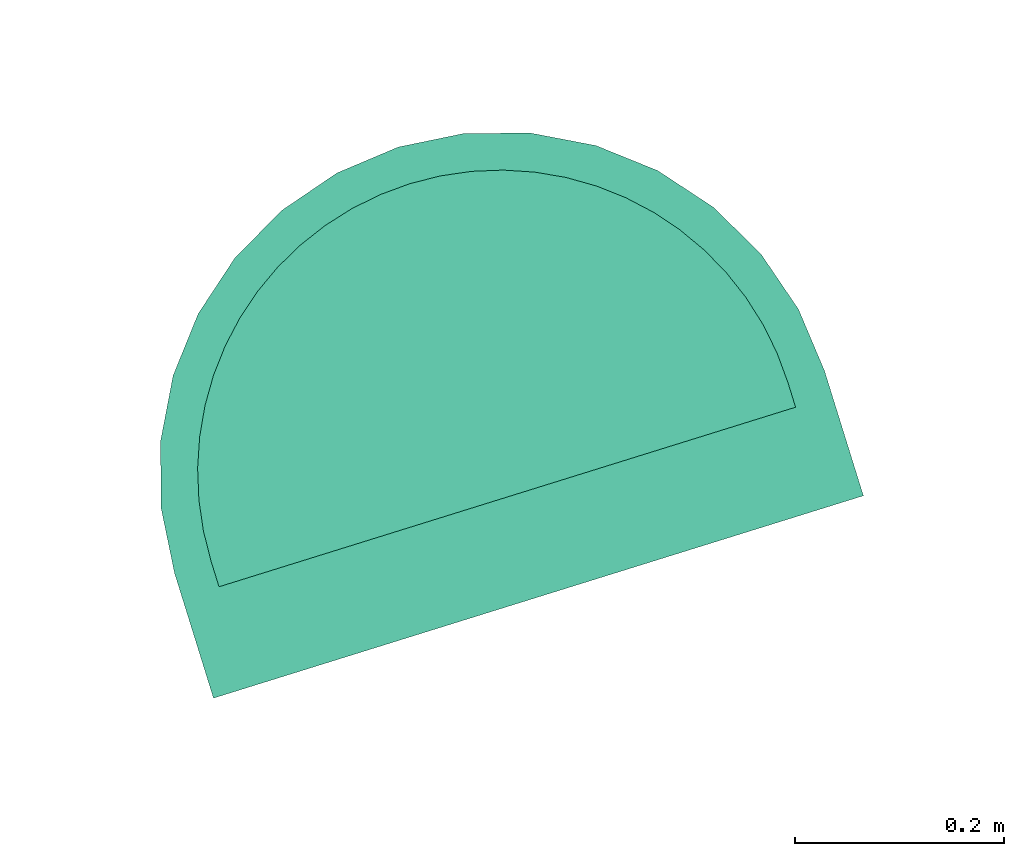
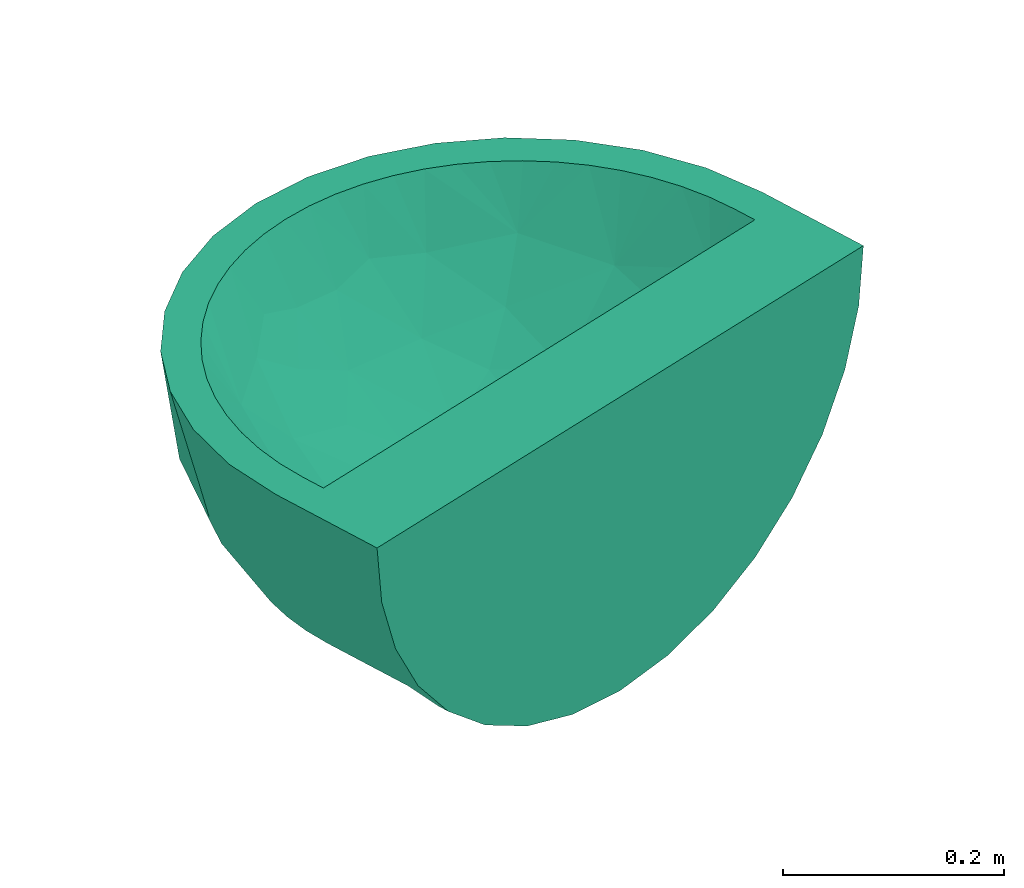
# Not in any storey, part 6 of 20: 1 sanitary terminal.
"""IFC4 model written with IfcOpenShell, lengths in metres."""

from ifc_helpers import new_model, entity, si_unit, converted_unit, direction, frame, origin, place, context, subcontext, project, polygons, source, transform, mapped, material, type_object, element, save


model = new_model("IFC4")

# Units and contexts
model_context = context("Model", 3, precision=1e-05, world=origin(), true_north=direction((6.12323399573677e-17, 1.0)))
body_context = subcontext(model_context, "Body", "Model", "MODEL_VIEW")
ifc_project = project(units=[si_unit("LENGTHUNIT", "METRE"), si_unit("AREAUNIT", "SQUARE_METRE"), si_unit("VOLUMEUNIT", "CUBIC_METRE"), converted_unit("PLANEANGLEUNIT", "DEGREE", entity("IfcPlaneAngleMeasure", 0.0174532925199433), si_unit("PLANEANGLEUNIT", "RADIAN"), dimensions=[0, 0, 0, 0, 0, 0, 0])], contexts=[model_context])

# Sanitary terminal
ifc_material = material(Name="<Unnamed>")
sanitary_terminal_type = type_object("IfcSanitaryTerminalType", Name="NLRS_74_PF_WB_wastafel_gen:wastafel", PredefinedType="SINK", material=ifc_material)
shared_shape = source(origin(), body_context, "Body", "Tessellation", [
    polygons([(-0.303081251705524, 0.175000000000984, -3.7), (-0.303081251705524, 0.0499999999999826, -3.7), (0.021918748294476, 0.0499999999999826, -3.7), (0.021918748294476, 0.150000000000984, -3.7), (-0.266395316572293, 0.150000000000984, -3.7), (-0.266395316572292, 0.175000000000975, -3.7), (-0.264816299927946, 0.205133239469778, -3.7), (-0.260095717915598, 0.234940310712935, -3.7), (-0.252285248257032, 0.264090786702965, -3.7), (-0.241470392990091, 0.292265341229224, -3.7), (-0.227769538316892, 0.319155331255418, -3.7), (-0.21133265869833, 0.344466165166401, -3.7), (-0.192339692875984, 0.367920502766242, -3.7), (-0.170998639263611, 0.389261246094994, -3.7), (-0.147543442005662, 0.408254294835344, -3.7), (-0.122231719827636, 0.424691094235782, -3.7), (-0.0953421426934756, 0.438391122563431, -3.7), (-0.0671705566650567, 0.449204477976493, -3.7), (-0.038024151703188, 0.457013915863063, -3.7), (-0.00821701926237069, 0.461734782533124, -3.7), (0.021918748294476, 0.463314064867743, -3.7), (0.021918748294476, 0.500000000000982, -3.7), (-0.0414856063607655, 0.493755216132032, -3.7), (-0.102453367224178, 0.475260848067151, -3.7), (-0.158641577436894, 0.44522762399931, -3.7), (-0.207890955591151, 0.404809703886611, -3.7), (-0.248308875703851, 0.355560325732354, -3.7), (-0.278342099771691, 0.299372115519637, -3.7), (-0.296836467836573, 0.238404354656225, -3.7), (0.346918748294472, 0.175000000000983, -3.7), (0.340673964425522, 0.238404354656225, -3.7), (0.32217959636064, 0.299372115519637, -3.7), (0.292146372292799, 0.355560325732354, -3.7), (0.2517284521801, 0.404809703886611, -3.7), (0.202479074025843, 0.44522762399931, -3.7), (0.146290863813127, 0.475260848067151, -3.7), (0.0853231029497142, 0.493755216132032, -3.7), (0.0520545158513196, 0.461734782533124, -3.7), (0.0818616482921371, 0.457013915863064, -3.7), (0.111008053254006, 0.449204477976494, -3.7), (0.139179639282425, 0.438391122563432, -3.7), (0.166069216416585, 0.424691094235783, -3.7), (0.191380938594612, 0.408254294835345, -3.7), (0.214836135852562, 0.389261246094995, -3.7), (0.236177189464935, 0.367920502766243, -3.7), (0.255170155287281, 0.344466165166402, -3.7), (0.271607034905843, 0.319155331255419, -3.7), (0.285307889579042, 0.292265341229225, -3.7), (0.296122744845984, 0.264090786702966, -3.7), (0.303933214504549, 0.234940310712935, -3.7), (0.308653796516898, 0.205133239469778, -3.7), (0.310232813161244, 0.175000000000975, -3.7), (0.310232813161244, 0.150000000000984, -3.7), (0.346918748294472, 0.0499999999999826, -3.7), (-0.298628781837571, 0.175000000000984, -3.75361232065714), (-0.285393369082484, 0.175000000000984, -3.8057556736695), (-0.263737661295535, 0.175000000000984, -3.85500134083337), (-0.234255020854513, 0.175000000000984, -3.9), (-0.234255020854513, 0.0749999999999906, -3.9), (-0.193925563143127, 0.0749999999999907, -3.94297372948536), (-0.146498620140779, 0.0749999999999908, -3.97795789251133), (-0.0935337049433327, 0.0749999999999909, -4.00380212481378), (-0.0367724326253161, 0.074999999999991, -4.01965660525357), (0.0219187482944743, 0.074999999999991, -4.025), (0.0806099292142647, 0.074999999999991, -4.01965660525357), (0.137371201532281, 0.0749999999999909, -4.00380212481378), (0.190336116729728, 0.0749999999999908, -3.97795789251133), (0.237763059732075, 0.0749999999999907, -3.94297372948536), (0.278092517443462, 0.0749999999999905, -3.9), (0.278092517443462, 0.175000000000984, -3.9), (0.307575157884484, 0.175000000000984, -3.85500134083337), (0.329230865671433, 0.175000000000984, -3.8057556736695), (0.34246627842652, 0.175000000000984, -3.75361232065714), (0.340673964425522, 0.0499999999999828, -3.76340435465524), (0.32217959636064, 0.049999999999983, -3.82437211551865), (0.292146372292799, 0.0499999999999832, -3.88056032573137), (0.2517284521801, 0.0499999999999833, -3.92980970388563), (0.202479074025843, 0.0499999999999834, -3.97022762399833), (0.146290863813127, 0.0499999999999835, -4.00026084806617), (0.085323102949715, 0.0499999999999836, -4.01875521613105), (0.0219187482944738, 0.0499999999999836, -4.025), (-0.0414856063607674, 0.0499999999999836, -4.01875521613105), (-0.102453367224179, 0.0499999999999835, -4.00026084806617), (-0.158641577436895, 0.0499999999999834, -3.97022762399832), (-0.207890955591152, 0.0499999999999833, -3.92980970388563), (-0.248308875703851, 0.0499999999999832, -3.88056032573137), (-0.278342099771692, 0.049999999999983, -3.82437211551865), (-0.296836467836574, 0.0499999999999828, -3.76340435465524), (-0.21409029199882, 0.0749999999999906, -3.92148686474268), (-0.170212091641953, 0.0749999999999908, -3.96046581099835), (0.214049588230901, 0.0749999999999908, -3.96046581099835), (0.257927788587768, 0.0749999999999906, -3.92148686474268), (0.27193741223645, 0.0499999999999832, -3.9051850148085), (0.227103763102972, 0.0499999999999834, -3.95001866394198), (0.174384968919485, 0.0499999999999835, -3.98524423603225), (0.115806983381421, 0.0499999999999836, -4.00950803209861), (-0.0719694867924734, 0.0499999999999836, -4.00950803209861), (-0.130547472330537, 0.0499999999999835, -3.98524423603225), (-0.183266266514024, 0.0499999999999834, -3.95001866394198), (-0.228099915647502, 0.0499999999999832, -3.9051850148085), (0.163853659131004, 0.0749999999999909, -3.99088000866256), (0.108990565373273, 0.0749999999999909, -4.01172936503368), (-0.0651530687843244, 0.0749999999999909, -4.01172936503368), (-0.120016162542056, 0.0749999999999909, -3.99088000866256), (0.27659082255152, 0.202697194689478, -3.9), (0.272103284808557, 0.230069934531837, -3.9), (0.264682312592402, 0.256797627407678, -3.9), (0.254414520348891, 0.282567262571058, -3.9), (0.24141970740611, 0.307076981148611, -3.9), (0.225849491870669, 0.330039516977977, -3.9), (0.207885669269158, 0.351185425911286, -3.9), (0.18773840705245, 0.370266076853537, -3.9), (0.165644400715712, 0.38705644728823, -3.9), (0.141864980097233, 0.401357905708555, -3.9), (0.116683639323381, 0.413001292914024, -3.9), (0.0904016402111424, 0.421850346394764, -3.9), (0.0633306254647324, 0.427804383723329, -3.9), (0.0357845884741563, 0.430798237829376, -3.9), (0.00807674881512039, 0.43079952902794, -3.9), (-0.0194777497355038, 0.427806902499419, -3.9), (-0.0465597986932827, 0.421851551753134, -3.9), (-0.0728496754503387, 0.412999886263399, -3.9), (-0.0980340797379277, 0.401354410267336, -3.9), (-0.121813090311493, 0.387052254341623, -3.9), (-0.1439051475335, 0.370262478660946, -3.9), (-0.164050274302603, 0.351183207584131, -3.9), (-0.182012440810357, 0.33003893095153, -3.9), (-0.197581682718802, 0.307077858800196, -3.9), (-0.210576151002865, 0.282569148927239, -3.9), (-0.220844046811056, 0.256799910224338, -3.9), (-0.228265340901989, 0.230071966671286, -3.9), (-0.232753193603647, 0.202698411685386, -3.9), (-0.257045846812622, 0.297316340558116, -3.81332461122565), (0.300884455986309, 0.297313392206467, -3.81332505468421), (-0.0097834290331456, 0.496877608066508, -3.7), (-0.205655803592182, 0.378737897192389, -3.81102113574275), (0.249493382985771, 0.378737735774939, -3.81102126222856), (0.0536209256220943, 0.496877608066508, -3.7), (0.0219337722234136, 0.481913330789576, -3.80690747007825), (-0.0719694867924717, 0.484508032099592, -3.7), (0.11580698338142, 0.484508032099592, -3.7), (-0.0425022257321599, 0.471258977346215, -3.81707073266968), (-0.165040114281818, 0.416191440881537, -3.81179477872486), (0.20887408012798, 0.416198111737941, -3.81178629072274), (0.0863501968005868, 0.471256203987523, -3.8170719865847), (-0.23446246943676, 0.305265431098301, -3.85140868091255), (0.278301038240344, 0.305263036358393, -3.85140892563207), (-0.120243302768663, 0.443687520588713, -3.81498681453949), (0.164074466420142, 0.443691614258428, -3.81498507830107), (-0.233336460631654, 0.358005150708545, -3.78353976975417), (0.277175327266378, 0.358003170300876, -3.78353992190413), (-0.290060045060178, 0.240925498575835, -3.76283359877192), (0.333897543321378, 0.240925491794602, -3.76283359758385), (-0.275008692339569, 0.237028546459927, -3.81666856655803), (-0.254394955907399, 0.239447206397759, -3.85850014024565), (-0.272362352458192, 0.296908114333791, -3.76451391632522), (0.31884634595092, 0.237026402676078, -3.81666930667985), (0.298232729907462, 0.239444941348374, -3.85850057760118), (0.316201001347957, 0.296905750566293, -3.76451312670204), (-0.0755829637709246, 0.474402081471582, -3.78047862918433), (-0.0690330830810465, 0.449635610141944, -3.84808121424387), (0.119420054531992, 0.474406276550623, -3.7804635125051), (0.112885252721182, 0.449636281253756, -3.84807095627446), (-0.228099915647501, 0.380185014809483, -3.7), (0.27193741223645, 0.380185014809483, -3.7), (-0.183266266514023, 0.425018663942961, -3.7), (0.227103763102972, 0.425018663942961, -3.7), (-0.130547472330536, 0.460244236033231, -3.7), (0.174384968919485, 0.460244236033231, -3.7), (-0.234514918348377, 0.175000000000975, -3.74966665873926), (-0.194178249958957, 0.175000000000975, -3.79274902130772), (-0.146715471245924, 0.175000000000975, -3.82782638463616), (-0.0936917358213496, 0.175000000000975, -3.85374202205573), (-0.0368555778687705, 0.175000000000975, -3.86964132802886), (0.0219187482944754, 0.175000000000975, -3.875), (0.0806930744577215, 0.175000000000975, -3.86964132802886), (0.137529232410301, 0.175000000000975, -3.85374202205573), (0.190552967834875, 0.175000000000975, -3.82782638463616), (0.238015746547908, 0.175000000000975, -3.79274902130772), (0.278352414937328, 0.175000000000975, -3.74966665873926), (-0.119627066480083, 0.322173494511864, -3.80284332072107), (0.163464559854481, 0.32217349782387, -3.8028433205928), (-0.200517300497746, 0.262511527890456, -3.77020203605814), (0.244354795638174, 0.262511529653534, -3.77020203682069), (-0.162633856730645, 0.347041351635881, -3.75485875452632), (0.206471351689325, 0.347041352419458, -3.75485875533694), (0.00220012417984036, 0.367185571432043, -3.81134437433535), (-0.0912046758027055, 0.393814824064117, -3.76200981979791), (0.135042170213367, 0.393814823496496, -3.76200982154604), (0.0498196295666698, 0.280825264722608, -3.85601887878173), (-0.0620730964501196, 0.266760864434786, -3.85025041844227), (0.160889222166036, 0.248929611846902, -3.83433540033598), (0.0405814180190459, 0.417340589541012, -3.76574926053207), (0.0863370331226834, 0.354389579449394, -3.81323879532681), (-0.00909478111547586, 0.420066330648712, -3.76120050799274), (-0.0478694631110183, 0.381606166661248, -3.79097405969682), (-0.0422183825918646, 0.327597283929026, -3.82968821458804), (-0.0074080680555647, 0.286981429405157, -3.8536858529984), (-0.00719351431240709, 0.22811728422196, -3.869305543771), (-0.0504034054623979, 0.422275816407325, -3.7481140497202), (0.115439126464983, 0.298042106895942, -3.83590134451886), (0.101584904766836, 0.237319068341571, -3.85886022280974), (-0.144773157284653, 0.251326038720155, -3.81835264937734), (0.0860600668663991, 0.418745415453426, -3.75518056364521), (-0.234512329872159, 0.150000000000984, -3.74966998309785), (-0.19417475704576, 0.150000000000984, -3.79275213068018), (-0.146711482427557, 0.150000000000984, -3.8278288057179), (-0.0936885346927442, 0.150000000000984, -3.85374324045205), (-0.0368543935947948, 0.150000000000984, -3.869641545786), (0.021917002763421, 0.150000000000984, -3.87499999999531), (0.080687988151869, 0.150000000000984, -3.86964226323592), (0.137520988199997, 0.150000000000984, -3.85374515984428), (0.19054233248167, 0.150000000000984, -3.82783283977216), (0.238003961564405, 0.150000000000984, -3.79275951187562), (0.278341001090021, 0.150000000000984, -3.74968131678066)], [[[22, 135, 23, 140, 24, 168, 25, 166, 26, 164, 27, 28, 29, 1, 2, 3, 54, 30, 31, 32, 33, 165, 34, 167, 35, 169, 36, 141, 37, 138], [21, 38, 39, 40, 41, 42, 43, 44, 45, 46, 47, 48, 49, 50, 51, 52, 53, 4, 5, 6, 7, 8, 9, 10, 11, 12, 13, 14, 15, 16, 17, 18, 19, 20]], [[55, 2, 1]], [[88, 55, 56]], [[56, 57, 87]], [[89, 100, 59]], [[97, 62, 103]], [[104, 83, 98]], [[82, 103, 63]], [[97, 103, 82]], [[63, 81, 82]], [[57, 58, 59]], [[68, 77, 94]], [[86, 59, 100]], [[86, 87, 57]], [[88, 2, 55]], [[56, 87, 88]], [[59, 86, 57]], [[98, 84, 61]], [[83, 62, 97]], [[60, 99, 85]], [[90, 61, 84]], [[69, 76, 93]], [[90, 99, 60]], [[100, 89, 85]], [[60, 85, 89]], [[78, 67, 91]], [[63, 64, 81]], [[66, 96, 102]], [[83, 104, 62]], [[68, 94, 91]], [[67, 78, 95]], [[79, 101, 95]], [[67, 95, 101]], [[72, 73, 74]], [[69, 70, 71]], [[75, 71, 72]], [[77, 68, 92]], [[81, 64, 65]], [[54, 73, 30]], [[99, 90, 84]], [[102, 80, 65]], [[79, 66, 101]], [[91, 94, 78]], [[80, 102, 96]], [[65, 80, 81]], [[66, 79, 96]], [[93, 77, 92]], [[69, 71, 76]], [[75, 76, 71]], [[72, 74, 75]], [[73, 54, 74]], [[69, 93, 92]], [[98, 61, 104]], [[74, 54, 3, 2, 88, 87, 86, 100, 85, 99, 84, 98, 83, 97, 82, 81, 80, 96, 79, 95, 78, 94, 77, 93, 76, 75]], [[143, 136, 25]], [[32, 159, 33]], [[134, 157, 158]], [[143, 125, 126]], [[146, 150, 136]], [[126, 127, 143]], [[109, 147, 108]], [[136, 143, 127]], [[125, 143, 148]], [[153, 157, 159]], [[121, 122, 161]], [[142, 135, 139]], [[153, 159, 32]], [[119, 120, 142]], [[24, 148, 143]], [[142, 160, 23]], [[147, 151, 134]], [[160, 161, 148]], [[124, 148, 123]], [[140, 148, 24]], [[160, 140, 23]], [[158, 106, 107]], [[128, 146, 136]], [[29, 28, 152]], [[148, 140, 160]], [[55, 152, 56]], [[156, 133, 154]], [[29, 55, 1]], [[152, 55, 29]], [[151, 34, 165]], [[137, 151, 147]], [[156, 28, 27]], [[121, 161, 142]], [[119, 142, 139]], [[131, 155, 130]], [[129, 130, 146]], [[149, 112, 113]], [[150, 26, 166]], [[58, 57, 155]], [[139, 118, 119]], [[56, 154, 57]], [[155, 57, 154]], [[161, 123, 148]], [[138, 145, 139]], [[155, 146, 130]], [[127, 128, 136]], [[133, 164, 150]], [[155, 132, 58]], [[161, 160, 142]], [[145, 138, 37]], [[71, 70, 158]], [[128, 129, 146]], [[139, 135, 22]], [[138, 139, 22]], [[139, 145, 118]], [[135, 142, 23]], [[145, 116, 117]], [[114, 149, 113]], [[149, 141, 36]], [[144, 35, 137]], [[154, 152, 156]], [[146, 155, 133]], [[110, 144, 137]], [[148, 124, 125]], [[163, 145, 162]], [[151, 165, 134]], [[144, 112, 149]], [[137, 109, 110]], [[118, 145, 117]], [[154, 133, 155]], [[162, 145, 37]], [[28, 156, 152]], [[150, 146, 133]], [[24, 143, 25, 168]], [[111, 112, 144]], [[110, 111, 144]], [[116, 145, 163]], [[137, 167, 151]], [[109, 137, 147]], [[120, 121, 142]], [[71, 158, 157]], [[107, 147, 158]], [[162, 37, 141]], [[147, 134, 158]], [[107, 108, 147]], [[157, 72, 71]], [[70, 105, 158]], [[152, 154, 56]], [[153, 31, 73]], [[114, 115, 163]], [[137, 35, 167]], [[156, 164, 133]], [[30, 73, 31]], [[153, 73, 72]], [[150, 166, 136]], [[157, 134, 159]], [[105, 106, 158]], [[31, 153, 32]], [[144, 36, 169, 35]], [[155, 131, 132]], [[164, 26, 150]], [[159, 134, 165]], [[157, 153, 72]], [[161, 122, 123]], [[141, 149, 162]], [[149, 114, 163]], [[149, 163, 162]], [[116, 163, 115]], [[164, 156, 27]], [[165, 33, 159]], [[25, 136, 166]], [[34, 151, 167]], [[36, 144, 149]], [[16, 15, 185]], [[190, 187, 198]], [[14, 13, 185]], [[199, 202, 190]], [[197, 198, 187]], [[183, 185, 11]], [[188, 17, 16]], [[191, 197, 181]], [[21, 195, 193]], [[193, 194, 204]], [[191, 203, 173]], [[197, 187, 196]], [[195, 200, 196]], [[20, 195, 21]], [[188, 16, 185]], [[195, 196, 187]], [[188, 196, 200]], [[198, 197, 191]], [[8, 183, 9]], [[188, 200, 18]], [[8, 7, 170]], [[201, 194, 190]], [[192, 201, 202]], [[170, 7, 6]], [[10, 9, 183]], [[20, 19, 200]], [[203, 183, 171]], [[173, 203, 172]], [[190, 202, 201]], [[171, 183, 170]], [[170, 183, 8]], [[185, 13, 12]], [[10, 183, 11]], [[179, 184, 178]], [[17, 188, 18]], [[12, 11, 185]], [[198, 199, 190]], [[14, 185, 15]], [[196, 188, 181]], [[174, 199, 191]], [[195, 187, 193]], [[182, 189, 194]], [[186, 42, 189]], [[182, 192, 184]], [[202, 176, 177]], [[189, 41, 40]], [[39, 38, 204]], [[43, 42, 186]], [[45, 44, 186]], [[197, 196, 181]], [[186, 184, 47]], [[194, 193, 187]], [[204, 189, 40]], [[186, 47, 46]], [[194, 201, 182]], [[44, 43, 186]], [[174, 175, 199]], [[48, 47, 184]], [[42, 41, 189]], [[174, 191, 173]], [[178, 184, 192]], [[192, 177, 178]], [[182, 184, 186]], [[181, 183, 203]], [[199, 198, 191]], [[181, 188, 185]], [[179, 180, 184]], [[200, 195, 20]], [[18, 200, 19]], [[180, 50, 184]], [[52, 51, 180]], [[50, 180, 51]], [[38, 21, 193]], [[46, 45, 186]], [[202, 199, 175]], [[184, 50, 49]], [[48, 184, 49]], [[181, 185, 183]], [[192, 182, 201]], [[40, 39, 204]], [[190, 194, 187]], [[182, 186, 189]], [[192, 202, 177]], [[175, 176, 202]], [[181, 203, 191]], [[172, 203, 171]], [[189, 204, 194]], [[193, 204, 38]], [[6, 5, 170]], [[170, 205, 171]], [[173, 172, 207]], [[206, 172, 171]], [[174, 173, 208]], [[170, 5, 205]], [[171, 205, 206]], [[174, 209, 210]], [[173, 207, 208]], [[174, 208, 209]], [[207, 172, 206]], [[210, 175, 174]], [[176, 175, 211]], [[176, 212, 177]], [[179, 178, 214]], [[213, 178, 177]], [[180, 179, 215]], [[212, 176, 211]], [[213, 177, 212]], [[214, 215, 179]], [[178, 213, 214]], [[53, 180, 215]], [[180, 53, 52]], [[210, 211, 175]], [[215, 214, 213, 212, 211, 210, 209, 208, 207, 206, 205, 5, 4, 53]], [[67, 101, 66, 102, 65, 64, 63, 103, 62, 104, 61, 90, 60, 89, 59, 69, 92, 68, 91]], [[69, 59, 58, 132, 131, 130, 129, 128, 127, 126, 125, 124, 123, 122, 121, 120, 119, 118, 117, 116, 115, 114, 113, 112, 111, 110, 109, 108, 107, 106, 105, 70]]], closed=True),
])
placement_1 = place(None, frame((13.1347999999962, 11.9886000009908, 0.0), z_axis=(0.0, 0.0, 1.0), x_axis=(0.954770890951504, 0.297342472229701, 0.0)))
placement_2 = place(placement_1, origin())
placement_3 = place(placement_2, frame((0.0, 0.0, 3.9)))
placement_4 = place(placement_3, origin())
sanitary_terminal_placement = place(placement_4, frame((7.4780812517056, 5.42500000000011, 4.525)))
element("IfcSanitaryTerminal", 1, at=sanitary_terminal_placement, type_object=sanitary_terminal_type, material=ifc_material, Name="NLRS_74_PF_WB_wastafel_gen:wastafel", ObjectType="NLRS_74_PF_WB_wastafel_gen:wastafel", PredefinedType="SINK", context=body_context, shape_type="MappedRepresentation", body=[
    mapped(shared_shape, transform((0.0, 0.0, 0.0), scale=1.0)),
])

save(model, "model.ifc")
